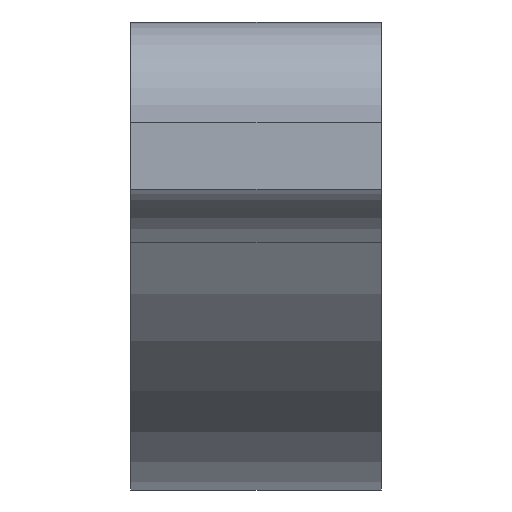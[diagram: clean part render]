
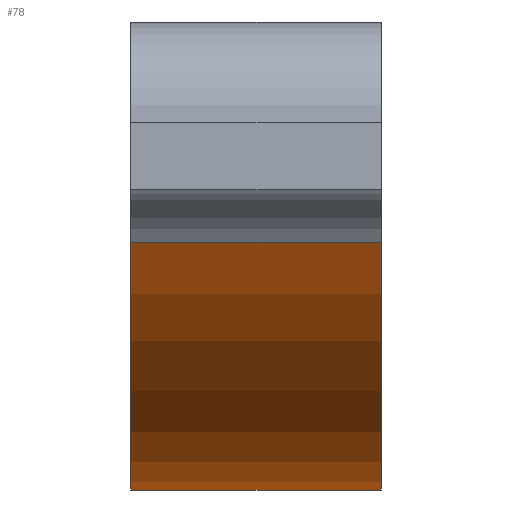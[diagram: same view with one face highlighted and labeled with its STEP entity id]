
A CAD part, left-side view. The second image highlights one B-rep face of the part: STEP entity #78.
In plain terms, the highlighted free-form (B-spline) face has degree [3, 1] with [10, 2] control points.
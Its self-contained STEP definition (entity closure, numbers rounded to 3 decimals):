
#42=B_SPLINE_SURFACE_WITH_KNOTS('',3,1,((#644,#645),(#646,#647),(#648,#649),
(#650,#651),(#652,#653),(#654,#655),(#656,#657),(#658,#659),(#660,#661),
(#662,#663)),.UNSPECIFIED.,.F.,.F.,.F.,(4,2,2,2,4),(2,2),(0.,0.25,0.5,0.75,
1.),(0.,1.),.UNSPECIFIED.);
#78=ADVANCED_FACE('',(#101),#42,.T.);
#101=FACE_OUTER_BOUND('',#124,.T.);
#124=EDGE_LOOP('',(#229,#230,#231,#232));
#130=B_SPLINE_CURVE_WITH_KNOTS('',3,(#534,#535,#536,#537,#538,#539,#540,
#541,#542,#543),.UNSPECIFIED.,.F.,.F.,(4,2,2,2,4),(0.,0.25,0.5,0.75,1.),
 .UNSPECIFIED.);
#131=B_SPLINE_CURVE_WITH_KNOTS('',3,(#578,#579,#580,#581,#582,#583,#584,
#585,#586,#587),.UNSPECIFIED.,.F.,.F.,(4,2,2,2,4),(0.,0.25,0.5,0.75,1.),
 .UNSPECIFIED.);
#229=ORIENTED_EDGE('',*,*,#283,.F.);
#230=ORIENTED_EDGE('',*,*,#328,.T.);
#231=ORIENTED_EDGE('',*,*,#300,.T.);
#232=ORIENTED_EDGE('',*,*,#329,.T.);
#249=VERTEX_POINT('',#533);
#250=VERTEX_POINT('',#544);
#266=VERTEX_POINT('',#577);
#267=VERTEX_POINT('',#588);
#283=EDGE_CURVE('',#249,#250,#130,.T.);
#300=EDGE_CURVE('',#267,#266,#131,.T.);
#328=EDGE_CURVE('',#249,#267,#358,.T.);
#329=EDGE_CURVE('',#266,#250,#359,.T.);
#358=LINE('',#642,#388);
#359=LINE('',#643,#389);
#388=VECTOR('',#518,1.);
#389=VECTOR('',#519,1.);
#518=DIRECTION('',(0.,-1.,0.));
#519=DIRECTION('',(0.,1.,0.));
#533=CARTESIAN_POINT('',(13.971,63.536,44.511));
#534=CARTESIAN_POINT('',(13.971,63.536,44.511));
#535=CARTESIAN_POINT('',(12.781,63.536,42.277));
#536=CARTESIAN_POINT('',(10.982,63.536,40.389));
#537=CARTESIAN_POINT('',(6.655,63.536,37.803));
#538=CARTESIAN_POINT('',(4.149,63.536,37.088));
#539=CARTESIAN_POINT('',(-0.922,63.536,37.106));
#540=CARTESIAN_POINT('',(-3.421,63.536,37.798));
#541=CARTESIAN_POINT('',(-7.749,63.536,40.389));
#542=CARTESIAN_POINT('',(-9.551,63.536,42.284));
#543=CARTESIAN_POINT('',(-10.736,63.536,44.51));
#544=CARTESIAN_POINT('',(-10.736,63.536,44.51));
#577=CARTESIAN_POINT('',(-10.736,56.036,44.51));
#578=CARTESIAN_POINT('',(13.971,56.036,44.511));
#579=CARTESIAN_POINT('',(12.781,56.036,42.277));
#580=CARTESIAN_POINT('',(10.982,56.036,40.389));
#581=CARTESIAN_POINT('',(6.655,56.036,37.803));
#582=CARTESIAN_POINT('',(4.149,56.036,37.088));
#583=CARTESIAN_POINT('',(-0.922,56.036,37.106));
#584=CARTESIAN_POINT('',(-3.421,56.036,37.798));
#585=CARTESIAN_POINT('',(-7.749,56.036,40.389));
#586=CARTESIAN_POINT('',(-9.551,56.036,42.284));
#587=CARTESIAN_POINT('',(-10.736,56.036,44.51));
#588=CARTESIAN_POINT('',(13.971,56.036,44.511));
#642=CARTESIAN_POINT('',(13.971,63.536,44.511));
#643=CARTESIAN_POINT('',(-10.736,64.036,44.51));
#644=CARTESIAN_POINT('',(-10.736,63.536,44.51));
#645=CARTESIAN_POINT('',(-10.736,56.036,44.51));
#646=CARTESIAN_POINT('',(-9.551,63.536,42.284));
#647=CARTESIAN_POINT('',(-9.551,56.036,42.284));
#648=CARTESIAN_POINT('',(-7.749,63.536,40.389));
#649=CARTESIAN_POINT('',(-7.749,56.036,40.389));
#650=CARTESIAN_POINT('',(-3.421,63.536,37.798));
#651=CARTESIAN_POINT('',(-3.421,56.036,37.798));
#652=CARTESIAN_POINT('',(-0.922,63.536,37.106));
#653=CARTESIAN_POINT('',(-0.922,56.036,37.106));
#654=CARTESIAN_POINT('',(4.149,63.536,37.088));
#655=CARTESIAN_POINT('',(4.149,56.036,37.088));
#656=CARTESIAN_POINT('',(6.655,63.536,37.803));
#657=CARTESIAN_POINT('',(6.655,56.036,37.803));
#658=CARTESIAN_POINT('',(10.982,63.536,40.389));
#659=CARTESIAN_POINT('',(10.982,56.036,40.389));
#660=CARTESIAN_POINT('',(12.781,63.536,42.277));
#661=CARTESIAN_POINT('',(12.781,56.036,42.277));
#662=CARTESIAN_POINT('',(13.971,63.536,44.511));
#663=CARTESIAN_POINT('',(13.971,56.036,44.511));
